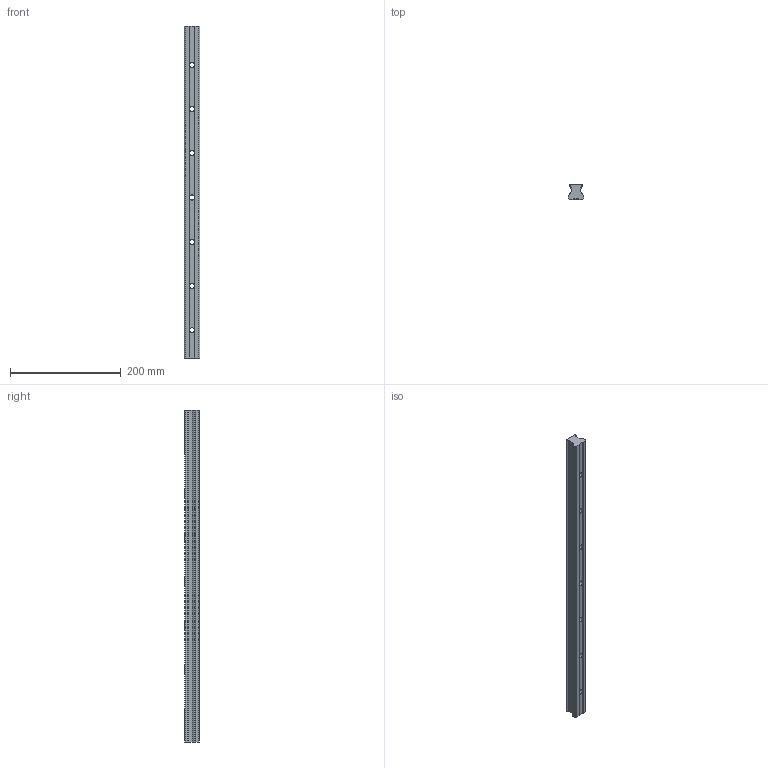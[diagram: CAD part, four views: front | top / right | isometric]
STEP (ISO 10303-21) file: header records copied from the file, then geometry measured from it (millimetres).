
FILE_DESCRIPTION (( 'STEP AP214' ), '1' );
FILE_NAME ('AR30-rail.STEP', '2012-02-14T01:34:54', ( '' ), ( '' ), 'SwSTEP 2.0', 'SolidWorks 2010', '' );
FILE_SCHEMA (( 'AUTOMOTIVE_DESIGN' ));
Length unit declared in the file: millimetre
Products named in the file (1): AR30-rail
Bounding box: 28 x 27 x 600 mm (x, y, z)
Volume: 335684.4 mm3; surface area: 74061.4 mm2
Topology: 1 solids, 1 shells, 156 faces, 420 edges, 266 vertices
Faces by surface type: cylinder 74, cone 42, plane 40
Entity records: 5050 total; most frequent: CARTESIAN_POINT 1025, DIRECTION 868, ORIENTED_EDGE 840, EDGE_CURVE 420, AXIS2_PLACEMENT_3D 333, VERTEX_POINT 266, VECTOR 202, LINE 202
